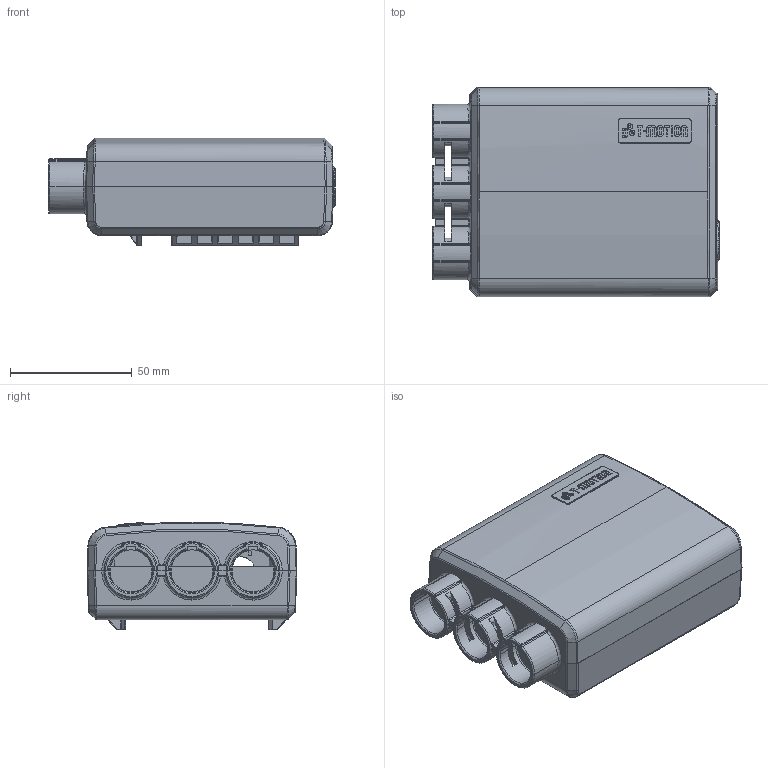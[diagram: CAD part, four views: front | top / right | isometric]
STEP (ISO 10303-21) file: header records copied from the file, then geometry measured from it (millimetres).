
FILE_DESCRIPTION (( 'STEP AP203' ), '1' );
FILE_NAME ('TC7.STEP', '2009-08-20T01:57:31', ( 'qingyunxiang' ), ( 'eng' ), 'SwSTEP 2.0', 'SolidWorks 2005204', '' );
FILE_SCHEMA (( 'CONFIG_CONTROL_DESIGN' ));
Length unit declared in the file: millimetre
Products named in the file (3): 31605-043-控制盒下蓋-A; 31605-042-控制盒上蓋-A; TC7
Assembly tree (2 placements, depth 2):
  TC7
    31605-043-控制盒下蓋-A
    31605-042-控制盒上蓋-A
Bounding box: 117.5 x 86 x 44.2 mm (x, y, z)
Volume: 84115.2 mm3; surface area: 72040 mm2
Topology: 2 solids, 2 shells, 2255 faces, 6272 edges, 4050 vertices
Faces by surface type: plane 1619, cylinder 317, bspline 130, cone 104, torus 71, sphere 14
Entity records: 111838 total; most frequent: CARTESIAN_POINT 61034, ORIENTED_EDGE 12532, DIRECTION 8491, EDGE_CURVE 6266, VERTEX_POINT 4050, AXIS2_PLACEMENT_3D 2921, LINE 2649, VECTOR 2649
